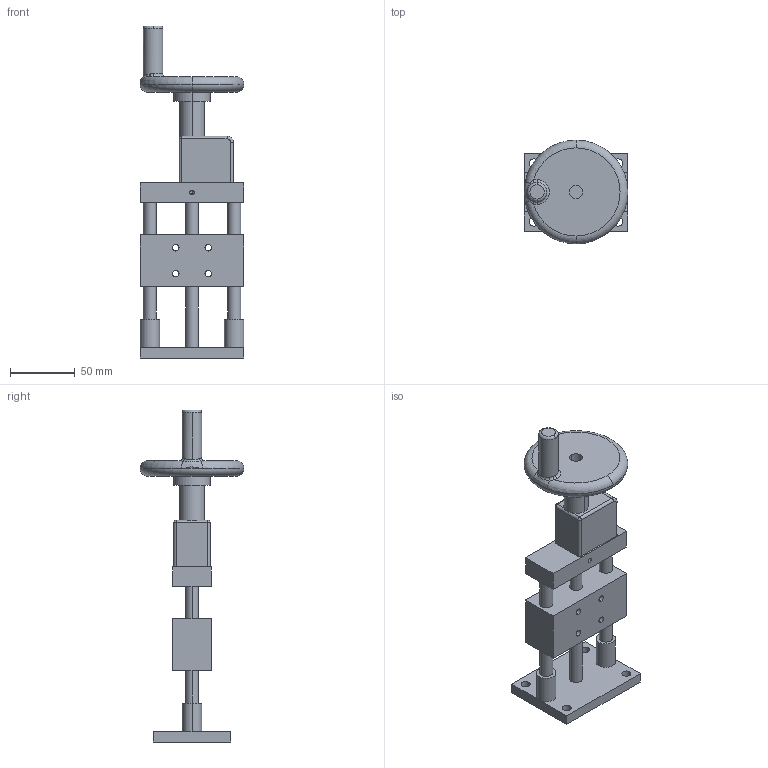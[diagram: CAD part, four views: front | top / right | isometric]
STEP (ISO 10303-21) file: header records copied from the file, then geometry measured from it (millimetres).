
FILE_DESCRIPTION (( 'STEP AP203' ), '1' );
FILE_NAME ('PT-SD501S.STEP', '2022-04-16T02:56:12', ( '' ), ( '' ), 'SwSTEP 2.0', 'SolidWorks 2017', '' );
FILE_SCHEMA (( 'CONFIG_CONTROL_DESIGN' ));
Length unit declared in the file: millimetre
Products named in the file (3): 忒謫2; PT-SD501S; 501S
Assembly tree (2 placements, depth 2):
  PT-SD501S
    501S
    忒謫2
Bounding box: 80 x 80 x 256 mm (x, y, z)
Volume: 301820.1 mm3; surface area: 64092 mm2
Topology: 2 solids, 2 shells, 101 faces, 248 edges, 155 vertices
Faces by surface type: cylinder 51, plane 30, torus 12, bspline 4, cone 2, sphere 2
Entity records: 3623 total; most frequent: CARTESIAN_POINT 815, DIRECTION 574, ORIENTED_EDGE 488, EDGE_CURVE 244, AXIS2_PLACEMENT_3D 236, VERTEX_POINT 155, EDGE_LOOP 135, CIRCLE 134
